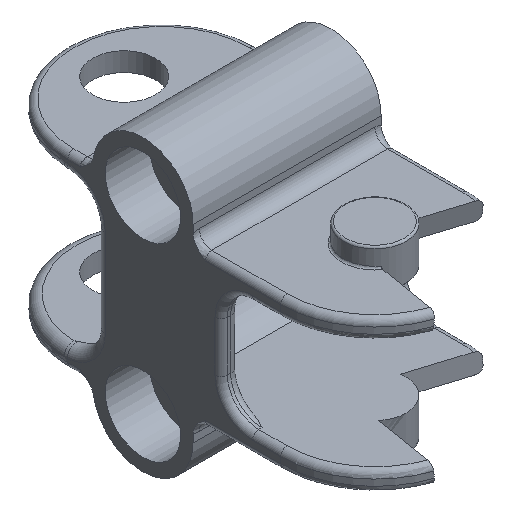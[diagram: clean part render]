
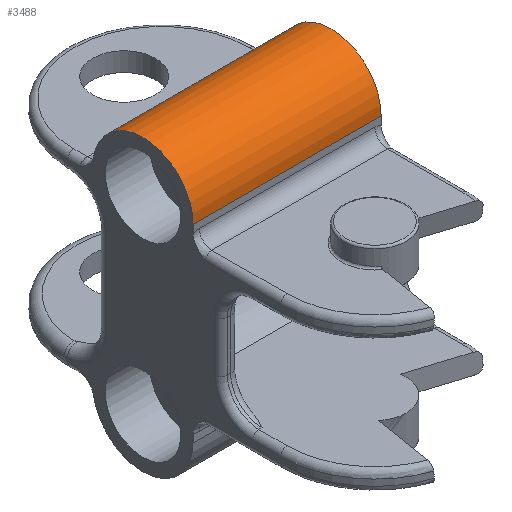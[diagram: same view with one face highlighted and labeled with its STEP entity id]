
A CAD part, isometric view. The second image highlights one B-rep face of the part: STEP entity #3488.
In plain terms, the highlighted cylindrical face has radius 8 mm (diameter 16 mm), a partial arc.
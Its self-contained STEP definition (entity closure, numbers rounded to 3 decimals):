
#1384=CARTESIAN_POINT('',(15.,3.09,6.1));
#1385=VERTEX_POINT('',#1384);
#1392=CARTESIAN_POINT('',(-15.,3.09,6.1));
#1393=VERTEX_POINT('',#1392);
#1394=CARTESIAN_POINT('',(-15.,3.09,6.1));
#1395=DIRECTION('',(1.0,0.0,0.0));
#1396=VECTOR('',#1395,30.0);
#1397=LINE('',#1394,#1396);
#1398=EDGE_CURVE('',#1393,#1385,#1397,.T.);
#1502=CARTESIAN_POINT('',(-14.,18.944,7.62));
#1503=VERTEX_POINT('',#1502);
#1511=CARTESIAN_POINT('',(14.,18.944,7.62));
#1512=VERTEX_POINT('',#1511);
#1513=CARTESIAN_POINT('',(-14.,18.944,7.62));
#1514=DIRECTION('',(1.0,0.0,0.0));
#1515=VECTOR('',#1514,28.);
#1516=LINE('',#1513,#1515);
#1517=EDGE_CURVE('',#1503,#1512,#1516,.T.);
#1810=CARTESIAN_POINT('',(-15.,18.969,7.483));
#1811=VERTEX_POINT('',#1810);
#1825=CARTESIAN_POINT('',(-15.,18.969,7.483));
#1826=CARTESIAN_POINT('',(-14.681,18.954,7.573));
#1827=CARTESIAN_POINT('',(-14.338,18.944,7.62));
#1828=CARTESIAN_POINT('',(-14.,18.944,7.62));
#1829=B_SPLINE_CURVE_WITH_KNOTS('',3,(#1825,#1826,#1827,#1828),.UNSPECIFIED.,.F.,.U.,(4,4),(-0.101,0.),.UNSPECIFIED.);
#1830=EDGE_CURVE('',#1811,#1503,#1829,.T.);
#2100=CARTESIAN_POINT('',(15.,18.969,7.483));
#2101=VERTEX_POINT('',#2100);
#2131=CARTESIAN_POINT('',(14.,18.944,7.62));
#2132=CARTESIAN_POINT('',(14.338,18.944,7.62));
#2133=CARTESIAN_POINT('',(14.681,18.954,7.573));
#2134=CARTESIAN_POINT('',(15.,18.969,7.483));
#2135=B_SPLINE_CURVE_WITH_KNOTS('',3,(#2131,#2132,#2133,#2134),.UNSPECIFIED.,.F.,.U.,(4,4),(1.893,1.994),.UNSPECIFIED.);
#2136=EDGE_CURVE('',#1512,#2101,#2135,.T.);
#3463=CARTESIAN_POINT('',(-15.0,11.09,6.1));
#3464=DIRECTION('',(1.0,0.,0.0));
#3465=DIRECTION('',(0.0,0.0,-1.0));
#3466=AXIS2_PLACEMENT_3D('',#3463,#3464,#3465);
#3467=CYLINDRICAL_SURFACE('',#3466,8.0);
#3468=ORIENTED_EDGE('',*,*,#1398,.T.);
#3469=CARTESIAN_POINT('',(15.0,11.09,6.1));
#3470=DIRECTION('',(-1.0,0.0,0.0));
#3471=DIRECTION('',(0.0,0.0,-1.0));
#3472=AXIS2_PLACEMENT_3D('',#3469,#3470,#3471);
#3473=CIRCLE('',#3472,8.0);
#3474=EDGE_CURVE('',#1385,#2101,#3473,.T.);
#3475=ORIENTED_EDGE('',*,*,#3474,.T.);
#3476=ORIENTED_EDGE('',*,*,#2136,.F.);
#3477=ORIENTED_EDGE('',*,*,#1517,.F.);
#3478=ORIENTED_EDGE('',*,*,#1830,.F.);
#3479=CARTESIAN_POINT('',(-15.0,11.09,6.1));
#3480=DIRECTION('',(1.0,0.0,0.0));
#3481=DIRECTION('',(0.0,0.0,-1.0));
#3482=AXIS2_PLACEMENT_3D('',#3479,#3480,#3481);
#3483=CIRCLE('',#3482,8.0);
#3484=EDGE_CURVE('',#1811,#1393,#3483,.T.);
#3485=ORIENTED_EDGE('',*,*,#3484,.T.);
#3486=EDGE_LOOP('',(#3468,#3475,#3476,#3477,#3478,#3485));
#3487=FACE_OUTER_BOUND('',#3486,.T.);
#3488=ADVANCED_FACE('',(#3487),#3467,.T.);
